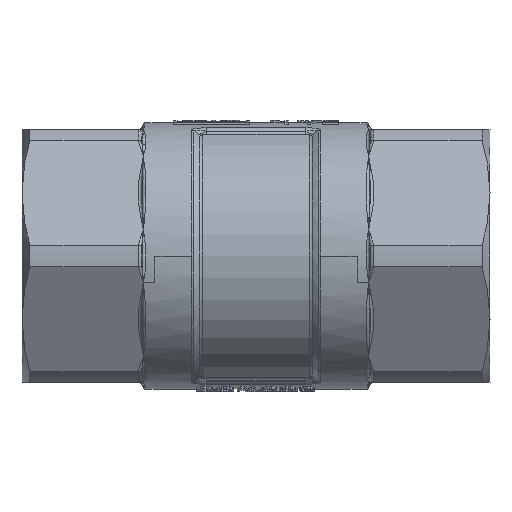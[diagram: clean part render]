
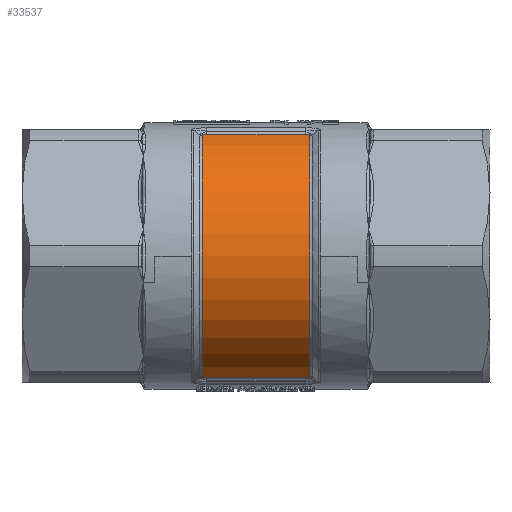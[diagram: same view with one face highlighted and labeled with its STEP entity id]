
A CAD part, front view. The second image highlights one B-rep face of the part: STEP entity #33537.
In plain terms, the highlighted cylindrical face has radius 28 mm (diameter 56 mm), a partial arc.
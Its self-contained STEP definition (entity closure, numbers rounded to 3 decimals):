
#8925=CARTESIAN_POINT('',(-11.732,0.,0.));
#8926=DIRECTION('',(-1.,0.,0.));
#8927=DIRECTION('',(0.,-0.352,-0.936));
#8928=AXIS2_PLACEMENT_3D('',#8925,#8926,#8927);
#8940=CARTESIAN_POINT('',(11.732,-9.852,
-26.209));
#8941=CARTESIAN_POINT('',(11.732,-9.823,
-26.22));
#8942=CARTESIAN_POINT('',(11.726,-9.764,
-26.242));
#8943=CARTESIAN_POINT('',(11.696,-9.675,
-26.276));
#8944=CARTESIAN_POINT('',(11.64,-9.586,
-26.308));
#8945=CARTESIAN_POINT('',(11.553,-9.504,
-26.338));
#8946=CARTESIAN_POINT('',(11.438,-9.434,
-26.363));
#8947=CARTESIAN_POINT('',(11.298,-9.377,
-26.383));
#8948=CARTESIAN_POINT('',(11.133,-9.335,
-26.398));
#8949=CARTESIAN_POINT('',(10.945,-9.309,
-26.407));
#8950=CARTESIAN_POINT('',(10.805,-9.303,
-26.409));
#8951=CARTESIAN_POINT('',(10.731,-9.303,
-26.409));
#8972=CARTESIAN_POINT('',(11.732,0.,0.));
#8973=DIRECTION('',(1.,0.,0.));
#8974=DIRECTION('',(0.,-0.352,0.936));
#8975=AXIS2_PLACEMENT_3D('',#8972,#8973,#8974);
#8987=CARTESIAN_POINT('',(10.731,-9.303,26.409));
#8988=CARTESIAN_POINT('',(10.805,-9.303,26.409));
#8989=CARTESIAN_POINT('',(10.945,-9.309,26.407));
#8990=CARTESIAN_POINT('',(11.133,-9.335,26.398));
#8991=CARTESIAN_POINT('',(11.298,-9.377,26.383));
#8992=CARTESIAN_POINT('',(11.438,-9.434,26.363));
#8993=CARTESIAN_POINT('',(11.553,-9.504,26.338));
#8994=CARTESIAN_POINT('',(11.64,-9.586,26.308));
#8995=CARTESIAN_POINT('',(11.696,-9.675,26.276));
#8996=CARTESIAN_POINT('',(11.726,-9.764,26.242));
#8997=CARTESIAN_POINT('',(11.732,-9.823,26.22));
#8998=CARTESIAN_POINT('',(11.732,-9.852,26.209));
#9017=DIRECTION('',(1.,0.,0.));
#9018=VECTOR('',#9017,21.461);
#9019=CARTESIAN_POINT('',(-10.731,-9.303,
26.409));
#9020=LINE('',#9019,#9018);
#9030=CARTESIAN_POINT('',(-11.732,-9.852,
26.209));
#9031=CARTESIAN_POINT('',(-11.732,-9.823,
26.22));
#9032=CARTESIAN_POINT('',(-11.726,-9.764,
26.242));
#9033=CARTESIAN_POINT('',(-11.696,-9.675,
26.276));
#9034=CARTESIAN_POINT('',(-11.64,-9.586,
26.308));
#9035=CARTESIAN_POINT('',(-11.553,-9.504,
26.338));
#9036=CARTESIAN_POINT('',(-11.438,-9.434,
26.363));
#9037=CARTESIAN_POINT('',(-11.298,-9.377,
26.383));
#9038=CARTESIAN_POINT('',(-11.133,-9.335,
26.398));
#9039=CARTESIAN_POINT('',(-10.945,-9.309,
26.407));
#9040=CARTESIAN_POINT('',(-10.805,-9.303,
26.409));
#9041=CARTESIAN_POINT('',(-10.731,-9.303,
26.409));
#9062=DIRECTION('',(-1.,0.,0.));
#9063=VECTOR('',#9062,21.461);
#9064=CARTESIAN_POINT('',(10.731,-9.303,
-26.409));
#9065=LINE('',#9064,#9063);
#9075=CARTESIAN_POINT('',(-10.731,-9.303,
-26.409));
#9076=CARTESIAN_POINT('',(-10.805,-9.303,
-26.409));
#9077=CARTESIAN_POINT('',(-10.945,-9.309,
-26.407));
#9078=CARTESIAN_POINT('',(-11.133,-9.335,
-26.398));
#9079=CARTESIAN_POINT('',(-11.298,-9.377,
-26.383));
#9080=CARTESIAN_POINT('',(-11.438,-9.434,
-26.363));
#9081=CARTESIAN_POINT('',(-11.553,-9.504,
-26.338));
#9082=CARTESIAN_POINT('',(-11.64,-9.586,
-26.308));
#9083=CARTESIAN_POINT('',(-11.696,-9.675,
-26.276));
#9084=CARTESIAN_POINT('',(-11.726,-9.764,
-26.242));
#9085=CARTESIAN_POINT('',(-11.732,-9.823,
-26.22));
#9086=CARTESIAN_POINT('',(-11.732,-9.852,
-26.209));
#21497=VERTEX_POINT('',#8940);
#21498=VERTEX_POINT('',#8951);
#21501=CARTESIAN_POINT('',(-10.731,-9.303,
-26.409));
#21502=VERTEX_POINT('',#21501);
#21505=VERTEX_POINT('',#9086);
#21507=CARTESIAN_POINT('',(-11.732,-9.852,
26.209));
#21508=VERTEX_POINT('',#21507);
#21511=VERTEX_POINT('',#9041);
#21513=CARTESIAN_POINT('',(10.731,-9.303,
26.409));
#21514=VERTEX_POINT('',#21513);
#21517=VERTEX_POINT('',#8998);
#33515=CARTESIAN_POINT('',(-25.3,0.,0.));
#33516=DIRECTION('',(1.,0.,0.));
#33517=DIRECTION('',(0.,-1.,0.));
#33518=AXIS2_PLACEMENT_3D('',#33515,#33516,#33517);
#33519=CYLINDRICAL_SURFACE('',#33518,28.);
#33521=ORIENTED_EDGE('',*,*,#33520,.T.);
#33523=ORIENTED_EDGE('',*,*,#33522,.T.);
#33525=ORIENTED_EDGE('',*,*,#33524,.T.);
#33526=ORIENTED_EDGE('',*,*,#33505,.T.);
#33528=ORIENTED_EDGE('',*,*,#33527,.T.);
#33530=ORIENTED_EDGE('',*,*,#33529,.T.);
#33532=ORIENTED_EDGE('',*,*,#33531,.T.);
#33534=ORIENTED_EDGE('',*,*,#33533,.T.);
#33535=EDGE_LOOP('',(#33521,#33523,#33525,#33526,#33528,#33530,#33532,#33534));
#33536=FACE_OUTER_BOUND('',#33535,.F.);
#8929=CIRCLE('',#8928,28.);
#8952=B_SPLINE_CURVE_WITH_KNOTS('',3,(#8940,#8941,#8942,#8943,#8944,#8945,#8946,
#8947,#8948,#8949,#8950,#8951),.UNSPECIFIED.,.F.,.F.,(4,1,1,1,1,1,1,1,1,4),
(0.,0.111,0.222,0.333,0.444,
0.556,0.667,0.778,0.889,1.),
.UNSPECIFIED.);
#8976=CIRCLE('',#8975,28.);
#8999=B_SPLINE_CURVE_WITH_KNOTS('',3,(#8987,#8988,#8989,#8990,#8991,#8992,#8993,
#8994,#8995,#8996,#8997,#8998),.UNSPECIFIED.,.F.,.F.,(4,1,1,1,1,1,1,1,1,4),
(0.,0.111,0.222,0.333,0.444,
0.556,0.667,0.778,0.889,1.),
.UNSPECIFIED.);
#9042=B_SPLINE_CURVE_WITH_KNOTS('',3,(#9030,#9031,#9032,#9033,#9034,#9035,#9036,
#9037,#9038,#9039,#9040,#9041),.UNSPECIFIED.,.F.,.F.,(4,1,1,1,1,1,1,1,1,4),
(0.,0.111,0.222,0.333,0.444,
0.556,0.667,0.778,0.889,1.),
.UNSPECIFIED.);
#9087=B_SPLINE_CURVE_WITH_KNOTS('',3,(#9075,#9076,#9077,#9078,#9079,#9080,#9081,
#9082,#9083,#9084,#9085,#9086),.UNSPECIFIED.,.F.,.F.,(4,1,1,1,1,1,1,1,1,4),
(0.,0.111,0.222,0.333,0.444,
0.556,0.667,0.778,0.889,1.),
.UNSPECIFIED.);
#33505=EDGE_CURVE('',#21505,#21508,#8929,.T.);
#33520=EDGE_CURVE('',#21497,#21498,#8952,.T.);
#33522=EDGE_CURVE('',#21498,#21502,#9065,.T.);
#33524=EDGE_CURVE('',#21502,#21505,#9087,.T.);
#33527=EDGE_CURVE('',#21508,#21511,#9042,.T.);
#33529=EDGE_CURVE('',#21511,#21514,#9020,.T.);
#33531=EDGE_CURVE('',#21514,#21517,#8999,.T.);
#33533=EDGE_CURVE('',#21517,#21497,#8976,.T.);
#33537=ADVANCED_FACE('',(#33536),#33519,.T.);
